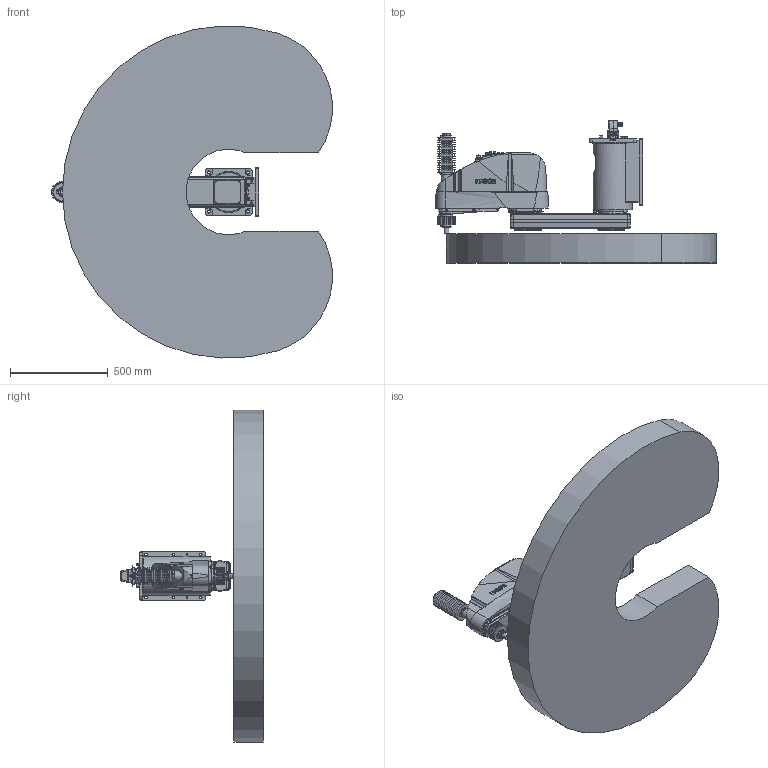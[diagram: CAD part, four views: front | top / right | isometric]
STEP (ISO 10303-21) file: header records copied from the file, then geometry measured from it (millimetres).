
FILE_DESCRIPTION( ( 'STEP AP214' ), '1' );
FILE_NAME( 'C:/Users/9607552/Desktop/GX10-B851CW_langle.stp', '2023-08-01T09:24:35', ( '' ), ( '' ), ' ', 'PARTsolutions', ' ' );
FILE_SCHEMA( ( 'AUTOMOTIVE_DESIGN { 1 0 10303 214 1 1 1 1 }' ) );
Length unit declared in the file: millimetre
Products named in the file (7): GX10-B851CWA-W; _Base cw; _Angle-B; _J1 Arm GX10-450 r/w; _J2 Arm GX10-c; _J3 Arm GX10-c (1); _GX10_20B-29_1
Assembly tree (6 placements, depth 2):
  GX10-B851CWA-W
    _Base cw
    _Angle-B
    _J1 Arm GX10-450 r/w
    _J2 Arm GX10-c
    _J3 Arm GX10-c (1)
    _GX10_20B-29_1
Bounding box: 1435.96 x 729.6 x 1698.44 mm (x, y, z)
Volume: 291272869.7 mm3; surface area: 6071723.3 mm2
Topology: 6 solids, 6 shells, 2513 faces, 6212 edges, 4046 vertices
Faces by surface type: plane 1320, cylinder 768, cone 320, torus 67, bspline 37, sphere 1
Full cylindrical faces by diameter (mm): 1.18 x55, 2.5 x2, 3 x32, 3.242 x10, 3.3 x9, 4 x2, 4.2 x2, 4.8 x4, 5.1 x4, 5.34 x4, 5.5 x12, 6 x4, 6.2 x2, 6.647 x2, 6.8 x2, 7 x19, 7.5 x1, 7.59 x4, 8 x4, 8.5 x2, 9 x4, 10 x32, 10.5 x4, 11 x14, 12 x7, 12.25 x1, 13 x8, 14 x20, 14.25 x1, 16 x7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
Entity records: 94960 total; most frequent: CARTESIAN_POINT 17558, DIRECTION 11893, ORIENTED_EDGE 10908, EDGE_CURVE 5454, AXIS2_PLACEMENT_3D 4510, VERTEX_POINT 3940, EDGE_LOOP 3547, FACE_OUTER_BOUND 2882
